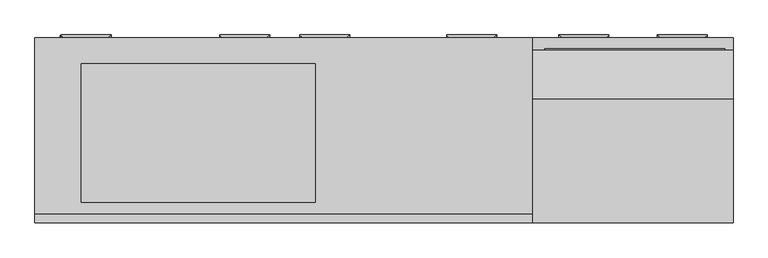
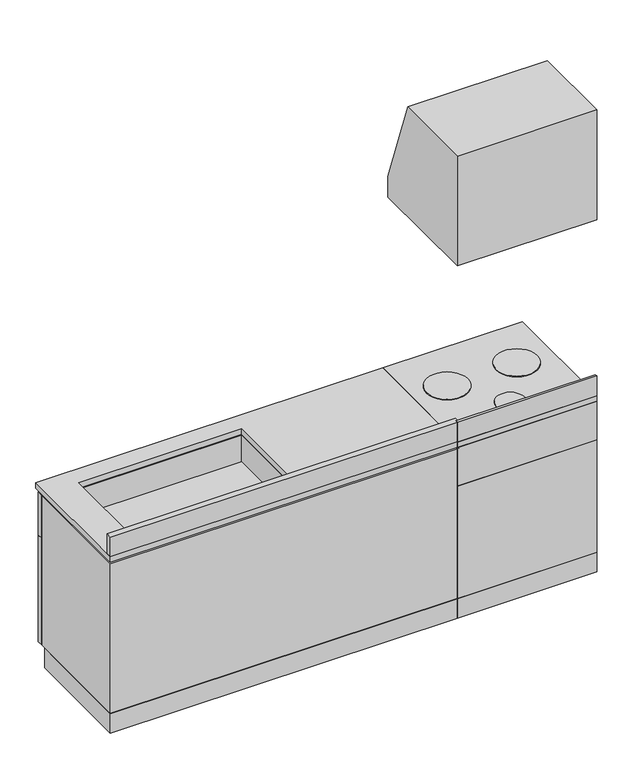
"""IFC4 building model written with IfcOpenShell, lengths in millimetres: flow terminal geometry, システムキッチンIH : システムキッチンIH."""

import ifcopenshell
import ifcopenshell.guid

model = None  # the IFC model being written
_history = None  # IfcOwnerHistory: only IFC2X3 demands one
_inside = {}  # id of a spatial element -> (the spatial element, [elements in it])
_under = {}  # id of a project, library or spatial element -> (it, [spatial elements below it])
_declared = {}  # id of a project -> (the project, [libraries it declares])
_typed = {}  # id of a type object -> (the type object, [elements of that type])
_made_of = {}  # id of a material, layer set ... -> (it, [elements and type objects made of it])


def new_model(schema):
    """Start an empty IFC model of exactly this schema.

    Asked for "IFC4X3", IfcOpenShell would pick the latest addendum, in which some entities
    have other attributes; the version numbers below select the first issue.
    IFC2X3 requires an IfcOwnerHistory on every rooted entity: one is made here for all.
    """
    global model, _history
    if schema == "IFC4X3":
        model = ifcopenshell.file(schema_version=(4, 3, 0, 0))
    else:
        model = ifcopenshell.file(schema=schema)
    _inside.clear()
    _under.clear()
    _declared.clear()
    _typed.clear()
    _made_of.clear()
    _history = None
    if model.schema == "IFC2X3":
        org = make("IfcOrganization", Name="unknown")
        user = make(
            "IfcPersonAndOrganization",
            ThePerson=make("IfcPerson", FamilyName="unknown"),
            TheOrganization=org,
        )
        app = make(
            "IfcApplication",
            ApplicationDeveloper=org,
            Version="unknown",
            ApplicationFullName="unknown",
            ApplicationIdentifier="unknown",
        )
        _history = make(
            "IfcOwnerHistory",
            OwningUser=user,
            OwningApplication=app,
            ChangeAction="ADDED",
            CreationDate=0,
        )
    return model


def make(cls, **values):
    """One entity of the class cls with the attributes given. An attribute that is None is left unset."""
    return model.create_entity(
        cls, **{name: value for name, value in values.items() if value is not None}
    )


def rooted(cls, **values):
    """An entity with a GlobalId (a new one), such as an element, a storey or a relation."""
    return make(cls, GlobalId=ifcopenshell.guid.new(), OwnerHistory=_history, **values)


def si_unit(unit_type, name, prefix=None):
    """IfcSIUnit, for example si_unit("LENGTHUNIT", "METRE", prefix="MILLI")."""
    return make("IfcSIUnit", UnitType=unit_type, Prefix=prefix, Name=name)


def assignment(units):
    """IfcUnitAssignment: the units of a project."""
    return None if units is None else make("IfcUnitAssignment", Units=units)


def point(xyz):
    """IfcCartesianPoint."""
    return None if xyz is None else make("IfcCartesianPoint", Coordinates=xyz)


def direction(xyz):
    """IfcDirection."""
    return None if xyz is None else make("IfcDirection", DirectionRatios=xyz)


def frame(location, z_axis=None, x_axis=None):
    """IfcAxis2Placement3D, a coordinate frame: its origin and axes. An axis left out is left unset."""
    return make(
        "IfcAxis2Placement3D",
        Location=point(location),
        Axis=direction(z_axis),
        RefDirection=direction(x_axis),
    )


def frame_2d(location, x_axis=None):
    """IfcAxis2Placement2D, a coordinate frame in the plane: its origin and x axis."""
    return make(
        "IfcAxis2Placement2D", Location=point(location), RefDirection=direction(x_axis)
    )


def origin():
    """The frame at (0, 0, 0) with its axes left unset."""
    return frame((0.0, 0.0, 0.0))


def place(relative_to, where):
    """IfcLocalPlacement: puts the frame where relative to a parent placement (None: the world)."""
    return make(
        "IfcLocalPlacement", PlacementRelTo=relative_to, RelativePlacement=where
    )


def context(
    kind, dimensions, precision=None, world=None, true_north=None, identifier=None
):
    """IfcGeometricRepresentationContext, for example the 3D "Model" context."""
    return make(
        "IfcGeometricRepresentationContext",
        ContextIdentifier=identifier,
        ContextType=kind,
        CoordinateSpaceDimension=dimensions,
        Precision=precision,
        WorldCoordinateSystem=world,
        TrueNorth=true_north,
    )


def project(units=None, contexts=None):
    """IfcProject with its units and contexts."""
    return rooted(
        "IfcProject",
        Name="project",
        RepresentationContexts=contexts,
        UnitsInContext=assignment(units),
    )


def spatial(cls, under=None, at=None, **own):
    """A site, building, storey or space (cls), placed at a placement, below another one or the project."""
    s = rooted(cls, ObjectPlacement=at, **own)
    if under is not None:
        _under.setdefault(under.id(), (under, []))[1].append(s)
    return s


def polyline(points):
    """IfcPolyline through the points."""
    return make("IfcPolyline", Points=[point(p) for p in points])


def circle_curve(where, radius):
    """IfcCircle in the frame where."""
    return make("IfcCircle", Position=where, Radius=radius)


def ellipse_curve(where, semi_axis1, semi_axis2):
    """IfcEllipse in the frame where."""
    return make(
        "IfcEllipse", Position=where, SemiAxis1=semi_axis1, SemiAxis2=semi_axis2
    )


def trimmed(basis, trim1, trim2, sense, master):
    """IfcTrimmedCurve: the piece of a basis curve between two trims."""
    return make(
        "IfcTrimmedCurve",
        BasisCurve=basis,
        Trim1=trim1,
        Trim2=trim2,
        SenseAgreement=sense,
        MasterRepresentation=master,
    )


def segment(curve, same_sense, transition):
    """IfcCompositeCurveSegment."""
    return make(
        "IfcCompositeCurveSegment",
        Transition=transition,
        SameSense=same_sense,
        ParentCurve=curve,
    )


def composite_curve(segments, self_intersect=None):
    """IfcCompositeCurve: segments joined end to end."""
    return make("IfcCompositeCurve", Segments=segments, SelfIntersect=self_intersect)


def outline(outer, holes=None, kind="AREA"):
    """IfcArbitraryClosedProfileDef: a profile drawn as a closed curve; with holes, ...WithVoids."""
    if holes is None:
        return make("IfcArbitraryClosedProfileDef", ProfileType=kind, OuterCurve=outer)
    return make(
        "IfcArbitraryProfileDefWithVoids",
        ProfileType=kind,
        OuterCurve=outer,
        InnerCurves=holes,
    )


def extrude(swept, where, along, depth):
    """IfcExtrudedAreaSolid: the profile swept, set in the frame where, extruded along a direction by depth."""
    return make(
        "IfcExtrudedAreaSolid",
        SweptArea=swept,
        Position=where,
        ExtrudedDirection=direction(along),
        Depth=depth,
    )


def faces_of(points, faces, orient=None, outer=None):
    """IfcFace entities. A face is a list of loops; a loop is a list of indices into points, from 0.

    orient and outer hold one flag for each loop. By default every Orientation is true, the
    first loop of a face is its IfcFaceOuterBound and the others are IfcFaceBound.
    """
    made = []
    for i, loops in enumerate(faces):
        bounds = []
        for j, loop in enumerate(loops):
            is_outer = j == 0 if outer is None else outer[i][j]
            bounds.append(
                make(
                    "IfcFaceOuterBound" if is_outer else "IfcFaceBound",
                    Bound=make("IfcPolyLoop", Polygon=[points[k] for k in loop]),
                    Orientation=True if orient is None else orient[i][j],
                )
            )
        made.append(make("IfcFace", Bounds=bounds))
    return made


def faceted_brep(points, faces, orient=None, outer=None, voids=None):
    """IfcFacetedBrep: a solid bounded by flat faces; with voids (closed shells), ...WithVoids."""
    shared = [point(p) for p in points]
    hull = make("IfcClosedShell", CfsFaces=faces_of(shared, faces, orient, outer))
    if voids is None:
        return make("IfcFacetedBrep", Outer=hull)
    return make(
        "IfcFacetedBrepWithVoids",
        Outer=hull,
        Voids=[
            make(cls, CfsFaces=faces_of(shared, fs, o, b)) for cls, fs, o, b in voids
        ],
    )


def shape(context_of_items, identifier, shape_type, items):
    """IfcShapeRepresentation: the items that make up one representation, for example the "Body"."""
    return make(
        "IfcShapeRepresentation",
        ContextOfItems=context_of_items,
        RepresentationIdentifier=identifier,
        RepresentationType=shape_type,
        Items=items,
    )


def source(mapping_origin, context_of_items, identifier, shape_type, items):
    """IfcRepresentationMap: a shape defined once, which mapped items show again and again."""
    return make(
        "IfcRepresentationMap",
        MappingOrigin=mapping_origin,
        MappedRepresentation=shape(context_of_items, identifier, shape_type, items),
    )


def transform(
    local_origin,
    x_axis=None,
    y_axis=None,
    z_axis=None,
    scale=None,
    scale2=None,
    scale3=None,
    uniform=True,
):
    """IfcCartesianTransformationOperator3D, or its non-uniform kind. x_axis, y_axis, z_axis: its Axis1, 2, 3."""
    if uniform:
        return make(
            "IfcCartesianTransformationOperator3D",
            Axis1=direction(x_axis),
            Axis2=direction(y_axis),
            LocalOrigin=point(local_origin),
            Scale=scale,
            Axis3=direction(z_axis),
        )
    return make(
        "IfcCartesianTransformationOperator3DnonUniform",
        Axis1=direction(x_axis),
        Axis2=direction(y_axis),
        LocalOrigin=point(local_origin),
        Scale=scale,
        Axis3=direction(z_axis),
        Scale2=scale2,
        Scale3=scale3,
    )


def mapped(mapping_source, mapping_target):
    """IfcMappedItem: shows the shape of a source again, moved by a transform."""
    return make(
        "IfcMappedItem", MappingSource=mapping_source, MappingTarget=mapping_target
    )


def made_of(thing, what):
    """Note that an element or type object is made of a material, layer set ...; save() writes the relation."""
    if what is not None:
        _made_of.setdefault(what.id(), (what, []))[1].append(thing)
    return thing


def element(
    cls,
    number,
    at=None,
    inside=None,
    cuts=None,
    type_object=None,
    material=None,
    context=None,
    identifier="Body",
    shape_type=None,
    held_by="IfcProductDefinitionShape",
    body=None,
    shapes=None,
    **own,
):
    """One element of the class cls, such as IfcWall. Its Tag is "e" and its number.

    at: its placement. inside: the storey or other place that contains it. cuts: it is an
    opening in that element (IfcRelVoidsElement). A single representation is given by context,
    identifier, shape_type and body (its items); several are given by shapes. held_by: the class
    of the entity that holds the representations. save() writes the other relations.
    """
    e = rooted(cls, Tag="e%d" % number, ObjectPlacement=at, **own)
    if body is not None:
        shapes = [shape(context, identifier, shape_type, body)]
    if shapes is not None:
        e.Representation = make(held_by, Representations=shapes)
    if inside is not None:
        _inside.setdefault(inside.id(), (inside, []))[1].append(e)
    if cuts is not None:
        rooted(
            "IfcRelVoidsElement", RelatingBuildingElement=cuts, RelatedOpeningElement=e
        )
    if type_object is not None:
        _typed.setdefault(type_object.id(), (type_object, []))[1].append(e)
    return made_of(e, material)


def aggregate(whole, parts):
    """IfcRelAggregates: a whole, such as a stair, and the parts it consists of."""
    return rooted("IfcRelAggregates", RelatingObject=whole, RelatedObjects=parts)


def save(model, path):
    """Write the relations noted so far, then the file.

    IfcRelAggregates (storeys below a building ...), IfcRelContainedInSpatialStructure (elements
    in a storey), IfcRelDefinesByType, IfcRelAssociatesMaterial and IfcRelDeclares: one each for
    every whole, place, type object, material and project.
    """
    for whole, parts in _under.values():
        aggregate(whole, parts)
    for where, things in _inside.values():
        rooted(
            "IfcRelContainedInSpatialStructure",
            RelatedElements=things,
            RelatingStructure=where,
        )
    for kind, things in _typed.values():
        rooted("IfcRelDefinesByType", RelatedObjects=things, RelatingType=kind)
    for what, things in _made_of.values():
        rooted("IfcRelAssociatesMaterial", RelatedObjects=things, RelatingMaterial=what)
    for by, libraries in _declared.values():
        rooted("IfcRelDeclares", RelatingContext=by, RelatedDefinitions=libraries)
    model.write(path)


def plane_surface(at):
    """IfcPlane: the flat surface through the origin of the frame at, square to its z axis."""
    return make("IfcPlane", Position=at)


def cylinder_surface(at, radius):
    """IfcCylindricalSurface: all points at the distance radius from the z axis of the frame at."""
    return make("IfcCylindricalSurface", Position=at, Radius=radius)


def advanced_brep(points, edges, surfaces, faces):
    """IfcAdvancedBrep: a solid bounded by faces that lie on surfaces and meet in shared edges.

    An edge is (start, end): straight between two places in points (the first is 0);
    or (start, end, curve); or (start, end, curve, False) where it runs against its curve.
    A face is (place in surfaces, loops), or (place, loops, False) where it looks against
    its surface's normal. A loop lists edges by number (the first is 1), with a minus sign
    where the edge is run from its end to its start. The first loop is the outer one.
    """
    corners = [point(p) for p in points]
    vertices = [make("IfcVertexPoint", VertexGeometry=c) for c in corners]
    made = []
    for start, end, *more in edges:
        made.append(
            make(
                "IfcEdgeCurve",
                EdgeStart=vertices[start],
                EdgeEnd=vertices[end],
                EdgeGeometry=more[0] if more else make("IfcPolyline", Points=[corners[start], corners[end]]),
                SameSense=more[1] if len(more) > 1 else True,
            )
        )
    hull = []
    for where, loops, *sense in faces:
        bounds = []
        for j, loop in enumerate(loops):
            ring = [make("IfcOrientedEdge", EdgeElement=made[abs(k) - 1], Orientation=k > 0) for k in loop]
            bounds.append(
                make(
                    "IfcFaceOuterBound" if j == 0 else "IfcFaceBound",
                    Bound=make("IfcEdgeLoop", EdgeList=ring),
                    Orientation=True,
                )
            )
        hull.append(make("IfcAdvancedFace", Bounds=bounds, FaceSurface=surfaces[where], SameSense=sense[0] if sense else True))
    return make("IfcAdvancedBrep", Outer=make("IfcClosedShell", CfsFaces=hull))


def flow_terminal_5276808d(model_context):
    return source(origin(), model_context, "Body", "SolidModel", [
        extrude(outline(polyline([(0.0, 1600.0), (0.0, 2099.0082413), (369.4428062, 2099.0082413), (516.4897805, 1695.0), (516.4897805, 1600.0), (0.0, 1600.0)])), frame((-600.0, 0.0, 0.0), z_axis=(1.0, 0.0, 0.0), x_axis=(0.0, 1.0, 0.0)), (0.0, 0.0, 1.0), 600.0),
        extrude(outline(polyline([(-24.5306616, 520.5154649), (-24.5306616, 516.4897805), (-564.5306616, 516.4897805), (-564.5306616, 520.5154649), (-24.5306616, 520.5154649)])), frame((0.0, 0.0, 1619.5443084), z_axis=(0.0, 0.0, 1.0), x_axis=(1.0, 0.0, 0.0)), (0.0, 0.0, 1.0), 40.0),
        extrude(outline(polyline([(0.0, 0.0), (-600.0, 0.0), (-600.0, 9.8381791), (0.0, 9.8381791), (0.0, 0.0)])), frame((0.0, 0.0, 800.0), z_axis=(0.0, 0.0, 1.0), x_axis=(1.0, 0.0, 0.0)), (0.0, 0.0, 1.0), 90.0),
        extrude(outline(polyline([(0.0, 0.0), (-600.0, 0.0), (-600.0, 540.0), (0.0, 540.0), (0.0, 0.0)])), frame((0.0, 0.0, 600.0), z_axis=(0.0, 0.0, 1.0), x_axis=(1.0, 0.0, 0.0)), (0.0, 0.0, 1.0), 175.0),
        faceted_brep([(0.0, 0.0, 600.0), (0.0, 516.4897805, 600.0), (-600.0, 516.4897805, 600.0), (-600.0, 0.0, 600.0), (-600.0, 0.0, 88.5), (-600.0, 540.0, 88.5), (-307.8169644, 540.0, 88.5), (-307.8169644, 516.4897805, 88.5), (-292.8169644, 516.4897805, 88.5), (-292.8169644, 540.0, 88.5), (0.0, 540.0, 88.5), (0.0, 0.0, 88.5), (-600.0, 516.4897805, 590.0), (-600.0, 540.0, 590.0), (-292.8169644, 540.0, 590.0), (0.0, 540.0, 590.0), (-307.8169644, 540.0, 590.0), (0.0, 516.4897805, 590.0), (-307.8169644, 516.4897805, 590.0), (-292.8169644, 516.4897805, 590.0)], [[[0, 1, 2, 3]], [[4, 5, 6, 7, 8, 9, 10, 11]], [[4, 3, 2, 12, 13, 5]], [[9, 14, 15, 10]], [[5, 13, 16, 6]], [[10, 15, 17, 1, 0, 11]], [[3, 4, 11, 0]], [[18, 12, 2, 1, 17, 19, 8, 7]], [[18, 16, 13, 12]], [[17, 15, 14, 19]], [[19, 14, 9, 8]], [[7, 6, 16, 18]]]),
        extrude(outline(composite_curve([segment(trimmed(circle_curve(frame_2d((-300.0, 124.5419688)), 60.0), [point((-360.0, 124.5419688))], [point((-240.0, 124.5419688))], False, "CARTESIAN"), True, "CONTINUOUS"), segment(trimmed(circle_curve(frame_2d((-300.0, 124.5419688)), 60.0), [point((-240.0, 124.5419688))], [point((-360.0, 124.5419688))], False, "CARTESIAN"), True, "CONTINUOUS")], self_intersect=False)), frame((0.0, 0.0, 800.0), z_axis=(0.0, 0.0, 1.0), x_axis=(1.0, 0.0, 0.0)), (0.0, 0.0, 1.0), 3.4559593),
        extrude(outline(composite_curve([segment(trimmed(circle_curve(frame_2d((-152.4677396, 331.6593351)), 89.0934112), [point((-241.5611508, 331.6593351))], [point((-63.3743285, 331.6593351))], False, "CARTESIAN"), True, "CONTINUOUS"), segment(trimmed(circle_curve(frame_2d((-152.4677396, 331.6593351)), 89.0934112), [point((-63.3743285, 331.6593351))], [point((-241.5611508, 331.6593351))], False, "CARTESIAN"), True, "CONTINUOUS")], self_intersect=False)), frame((0.0, 0.0, 800.0), z_axis=(0.0, 0.0, 1.0), x_axis=(1.0, 0.0, 0.0)), (0.0, 0.0, 1.0), 3.4559593),
        extrude(outline(composite_curve([segment(trimmed(circle_curve(frame_2d((-452.4677396, 331.6593351)), 89.0934112), [point((-541.5611508, 331.6593351))], [point((-363.3743285, 331.6593351))], False, "CARTESIAN"), True, "CONTINUOUS"), segment(trimmed(circle_curve(frame_2d((-452.4677396, 331.6593351)), 89.0934112), [point((-363.3743285, 331.6593351))], [point((-541.5611508, 331.6593351))], False, "CARTESIAN"), True, "CONTINUOUS")], self_intersect=False)), frame((0.0, 0.0, 800.0), z_axis=(0.0, 0.0, 1.0), x_axis=(1.0, 0.0, 0.0)), (0.0, 0.0, 1.0), 3.4559593),
        extrude(outline(polyline([(0.0, 0.0), (-600.0, 0.0), (-600.0, 555.0), (0.0, 555.0), (0.0, 0.0)])), frame((0.0, 0.0, 775.0), z_axis=(0.0, 0.0, 1.0), x_axis=(1.0, 0.0, 0.0)), (0.0, 0.0, 1.0), 25.0),
        advanced_brep(
        [(-227.6629348, 537.5962435, 549.478406), (-217.6629348, 537.5962435, 549.478406), (-217.6629348, 552.5962435, 549.478406), (-227.6629348, 562.5962435, 549.478406), (-87.6629348, 552.5962435, 549.478406), (-77.6629348, 562.5962435, 549.478406), (-77.6629348, 537.5962435, 549.478406), (-87.6629348, 537.5962435, 549.478406)],
        [
            (0, 1, circle_curve(frame((-222.6629348, 537.5962435, 549.478406), z_axis=(0.0, -1.0, 0.0), x_axis=(1.0, 0.0, 0.0)), 5.0)),
            (1, 0, circle_curve(frame((-222.6629348, 537.5962435, 549.478406), z_axis=(0.0, -1.0, 0.0), x_axis=(1.0, 0.0, 0.0)), 5.0)),
            (1, 2),
            (2, 3, ellipse_curve(frame((-222.6629348, 557.5962435, 549.478406), z_axis=(-0.7071067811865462, -0.7071067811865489, 0.0), x_axis=(0.707106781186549, -0.707106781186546, 0.0)), 7.0710678, 5.0)),
            (3, 0),
            (3, 2, ellipse_curve(frame((-222.6629348, 557.5962435, 549.478406), z_axis=(-0.7071067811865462, -0.7071067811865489, 0.0), x_axis=(0.707106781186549, -0.707106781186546, 0.0)), 7.0710678, 5.0)),
            (2, 4),
            (4, 5, ellipse_curve(frame((-82.6629348, 557.5962435, 549.478406), z_axis=(-0.7071067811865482, 0.7071067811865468, 0.0), x_axis=(-0.7071067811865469, -0.7071067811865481, 0.0)), 7.0710678, 5.0)),
            (5, 3),
            (5, 4, ellipse_curve(frame((-82.6629348, 557.5962435, 549.478406), z_axis=(-0.7071067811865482, 0.7071067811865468, 0.0), x_axis=(-0.7071067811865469, -0.7071067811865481, 0.0)), 7.0710678, 5.0)),
            (6, 7, circle_curve(frame((-82.6629348, 537.5962435, 549.478406), z_axis=(0.0, -1.0, 0.0), x_axis=(-1.0, 0.0, 0.0)), 5.0)),
            (7, 6, circle_curve(frame((-82.6629348, 537.5962435, 549.478406), z_axis=(0.0, -1.0, 0.0), x_axis=(-1.0, 0.0, 0.0)), 5.0)),
            (4, 7),
            (6, 5),
        ],
        [
            plane_surface(frame((-222.6629348, 537.5962435, 0.0), z_axis=(0.0, -1.0, 0.0), x_axis=(0.0, 0.0, 1.0))),
            cylinder_surface(frame((-222.6629348, 537.5962435, 549.478406), z_axis=(0.0, -1.0, 0.0), x_axis=(1.0, 0.0, 0.0)), 5.0),
            cylinder_surface(frame((-222.6629348, 557.5962435, 549.478406), z_axis=(-1.0, 0.0, 0.0), x_axis=(0.0, -1.0, 0.0)), 5.0),
            plane_surface(frame((-82.6629348, 537.5962435, 0.0), z_axis=(0.0, -1.0, 0.0), x_axis=(0.0, 0.0, 1.0))),
            cylinder_surface(frame((-82.6629348, 557.5962435, 549.478406), z_axis=(0.0, 1.0, 0.0), x_axis=(-1.0, 0.0, 0.0)), 5.0),
        ],
        [
            (0, [[1, 2]]),
            (1, [[3, 4, 5, -2]]),
            (1, [[-5, 6, -3, -1]]),
            (2, [[7, 8, 9, -4]]),
            (2, [[-9, 10, -7, -6]]),
            (3, [[11, 12]]),
            (4, [[13, -11, 14, -8]]),
            (4, [[-14, -12, -13, -10]]),
        ],
    ),
        advanced_brep(
        [(-522.1659599, 537.5962435, 552.9843944), (-512.1659599, 537.5962435, 552.9843944), (-512.1659599, 552.5962435, 552.9843944), (-522.1659599, 562.5962435, 552.9843944), (-382.1659599, 552.5962435, 552.9843944), (-372.1659599, 562.5962435, 552.9843944), (-372.1659599, 537.5962435, 552.9843944), (-382.1659599, 537.5962435, 552.9843944)],
        [
            (0, 1, circle_curve(frame((-517.1659599, 537.5962435, 552.9843944), z_axis=(0.0, -1.0, 0.0), x_axis=(1.0, 0.0, 0.0)), 5.0)),
            (1, 0, circle_curve(frame((-517.1659599, 537.5962435, 552.9843944), z_axis=(0.0, -1.0, 0.0), x_axis=(1.0, 0.0, 0.0)), 5.0)),
            (1, 2),
            (2, 3, ellipse_curve(frame((-517.1659599, 557.5962435, 552.9843944), z_axis=(-0.7071067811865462, -0.7071067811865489, 0.0), x_axis=(0.707106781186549, -0.707106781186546, 0.0)), 7.0710678, 5.0)),
            (3, 0),
            (3, 2, ellipse_curve(frame((-517.1659599, 557.5962435, 552.9843944), z_axis=(-0.7071067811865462, -0.7071067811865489, 0.0), x_axis=(0.707106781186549, -0.707106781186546, 0.0)), 7.0710678, 5.0)),
            (2, 4),
            (4, 5, ellipse_curve(frame((-377.1659599, 557.5962435, 552.9843944), z_axis=(-0.7071067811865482, 0.7071067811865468, 0.0), x_axis=(-0.7071067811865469, -0.7071067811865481, 0.0)), 7.0710678, 5.0)),
            (5, 3),
            (5, 4, ellipse_curve(frame((-377.1659599, 557.5962435, 552.9843944), z_axis=(-0.7071067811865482, 0.7071067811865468, 0.0), x_axis=(-0.7071067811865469, -0.7071067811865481, 0.0)), 7.0710678, 5.0)),
            (6, 7, circle_curve(frame((-377.1659599, 537.5962435, 552.9843944), z_axis=(0.0, -1.0, 0.0), x_axis=(-1.0, 0.0, 0.0)), 5.0)),
            (7, 6, circle_curve(frame((-377.1659599, 537.5962435, 552.9843944), z_axis=(0.0, -1.0, 0.0), x_axis=(-1.0, 0.0, 0.0)), 5.0)),
            (4, 7),
            (6, 5),
        ],
        [
            plane_surface(frame((-517.1659599, 537.5962435, 0.0), z_axis=(0.0, -1.0, 0.0), x_axis=(0.0, 0.0, 1.0))),
            cylinder_surface(frame((-517.1659599, 537.5962435, 552.9843944), z_axis=(0.0, -1.0, 0.0), x_axis=(1.0, 0.0, 0.0)), 5.0),
            cylinder_surface(frame((-517.1659599, 557.5962435, 552.9843944), z_axis=(-1.0, 0.0, 0.0), x_axis=(0.0, -1.0, 0.0)), 5.0),
            plane_surface(frame((-377.1659599, 537.5962435, 0.0), z_axis=(0.0, -1.0, 0.0), x_axis=(0.0, 0.0, 1.0))),
            cylinder_surface(frame((-377.1659599, 557.5962435, 552.9843944), z_axis=(0.0, 1.0, 0.0), x_axis=(-1.0, 0.0, 0.0)), 5.0),
        ],
        [
            (0, [[1, 2]]),
            (1, [[3, 4, 5, -2]]),
            (1, [[-5, 6, -3, -1]]),
            (2, [[7, 8, 9, -4]]),
            (2, [[-9, 10, -7, -6]]),
            (3, [[11, 12]]),
            (4, [[13, -11, 14, -8]]),
            (4, [[-14, -12, -13, -10]]),
        ],
    ),
        extrude(outline(polyline([(0.0, 0.0), (-600.0, 0.0), (-600.0, 490.0), (0.0, 490.0), (0.0, 0.0)])), frame((0.0, 0.0, -0.5), z_axis=(0.0, 0.0, 1.0), x_axis=(1.0, 0.0, 0.0)), (0.0, 0.0, 1.0), 89.0),
        faceted_brep([(-2058.2204435, 25.0, 770.0), (-1043.7955275, 25.0, 770.0), (-1043.7955275, 490.0, 770.0), (-2058.2204435, 490.0, 770.0), (-1252.8937158, 61.4897805, 770.0), (-1952.8937158, 61.4897805, 770.0), (-1952.8937158, 476.3747196, 770.0), (-1252.8937158, 476.3747196, 770.0), (-2058.2204435, 25.0, 481.2861972), (-2058.2204435, 490.0, 481.2861972), (-1043.7955275, 490.0, 481.2861972), (-1043.7955275, 25.0, 481.2861972), (-1952.8937158, 61.4897805, 650.0), (-1252.8937158, 61.4897805, 650.0), (-1252.8937158, 476.3747196, 650.0), (-1952.8937158, 476.3747196, 650.0)], [[[0, 1, 2, 3], [4, 5, 6, 7]], [[8, 9, 10, 11]], [[1, 0, 8, 11]], [[2, 1, 11, 10]], [[3, 2, 10, 9]], [[0, 3, 9, 8]], [[12, 13, 14, 15]], [[13, 12, 5, 4]], [[14, 13, 4, 7]], [[15, 14, 7, 6]], [[12, 15, 6, 5]]]),
        extrude(outline(polyline([(-2092.3937158, 0.0), (-2092.3937158, 508.8242978), (-592.8937158, 508.8242978), (-592.8937158, 0.0), (-2092.3937158, 0.0)]), holes=[polyline([(-2058.2204435, 25.0), (-641.4661184, 25.0), (-641.4661184, 490.0), (-2058.2204435, 490.0), (-2058.2204435, 25.0)])]), frame((0.0, 0.0, 90.0), z_axis=(0.0, 0.0, 1.0), x_axis=(1.0, 0.0, 0.0)), (0.0, 0.0, 1.0), 680.0),
        extrude(outline(polyline([(-2092.3937158, 0.0), (-2092.3937158, 555.0), (-592.8937158, 555.0), (-592.8937158, 0.0), (-2092.3937158, 0.0)]), holes=[polyline([(-1952.8937158, 61.4897805), (-1252.8937158, 61.4897805), (-1252.8937158, 476.3747196), (-1952.8937158, 476.3747196), (-1952.8937158, 61.4897805)])]), frame((0.0, 0.0, 775.0), z_axis=(0.0, 0.0, 1.0), x_axis=(1.0, 0.0, 0.0)), (0.0, 0.0, 1.0), 25.0),
        advanced_brep(
        [(-1865.841626, 537.5962435, 514.8721474), (-1875.841626, 537.5962435, 514.8721474), (-1865.841626, 562.5962435, 514.8721474), (-1875.841626, 552.5962435, 514.8721474), (-2015.841626, 562.5962435, 514.8721474), (-2005.841626, 552.5962435, 514.8721474), (-2015.841626, 537.5962435, 514.8721474), (-2005.841626, 537.5962435, 514.8721474)],
        [
            (0, 1, circle_curve(frame((-1870.841626, 537.5962435, 514.8721474), z_axis=(0.0, -1.0, 0.0), x_axis=(-1.0, 0.0, 0.0)), 5.0)),
            (1, 0, circle_curve(frame((-1870.841626, 537.5962435, 514.8721474), z_axis=(0.0, -1.0, 0.0), x_axis=(-1.0, 0.0, 0.0)), 5.0)),
            (0, 2),
            (2, 3, ellipse_curve(frame((-1870.841626, 557.5962435, 514.8721474), z_axis=(0.7071067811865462, -0.7071067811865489, 0.0), x_axis=(-0.707106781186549, -0.707106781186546, 0.0)), 7.0710678, 5.0)),
            (3, 1),
            (3, 2, ellipse_curve(frame((-1870.841626, 557.5962435, 514.8721474), z_axis=(0.7071067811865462, -0.7071067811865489, 0.0), x_axis=(-0.707106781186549, -0.707106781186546, 0.0)), 7.0710678, 5.0)),
            (2, 4),
            (4, 5, ellipse_curve(frame((-2010.841626, 557.5962435, 514.8721474), z_axis=(0.7071067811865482, 0.7071067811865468, 0.0), x_axis=(0.7071067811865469, -0.7071067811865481, 0.0)), 7.0710678, 5.0)),
            (5, 3),
            (5, 4, ellipse_curve(frame((-2010.841626, 557.5962435, 514.8721474), z_axis=(0.7071067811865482, 0.7071067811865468, 0.0), x_axis=(0.7071067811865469, -0.7071067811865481, 0.0)), 7.0710678, 5.0)),
            (6, 7, circle_curve(frame((-2010.841626, 537.5962435, 514.8721474), z_axis=(0.0, -1.0, 0.0), x_axis=(1.0, 0.0, 0.0)), 5.0)),
            (7, 6, circle_curve(frame((-2010.841626, 537.5962435, 514.8721474), z_axis=(0.0, -1.0, 0.0), x_axis=(1.0, 0.0, 0.0)), 5.0)),
            (4, 6),
            (7, 5),
        ],
        [
            plane_surface(frame((-1870.841626, 537.5962435, -199.3877131), z_axis=(0.0, -1.0, 0.0), x_axis=(0.0, 0.0, 1.0))),
            cylinder_surface(frame((-1870.841626, 537.5962435, 514.8721474), z_axis=(0.0, -1.0, 0.0), x_axis=(-1.0, 0.0, 0.0)), 5.0),
            cylinder_surface(frame((-1870.841626, 557.5962435, 514.8721474), z_axis=(1.0, 0.0, 0.0), x_axis=(0.0, -1.0, 0.0)), 5.0),
            plane_surface(frame((-2010.841626, 537.5962435, -199.3877131), z_axis=(0.0, -1.0, 0.0), x_axis=(0.0, 0.0, 1.0))),
            cylinder_surface(frame((-2010.841626, 557.5962435, 514.8721474), z_axis=(0.0, 1.0, 0.0), x_axis=(1.0, 0.0, 0.0)), 5.0),
        ],
        [
            (0, [[1, 2]]),
            (1, [[-1, 3, 4, 5]]),
            (1, [[-2, -5, 6, -3]]),
            (2, [[-4, 7, 8, 9]]),
            (2, [[-6, -9, 10, -7]]),
            (3, [[11, 12]]),
            (4, [[-8, 13, -12, 14]]),
            (4, [[-10, -14, -11, -13]]),
        ],
    ),
        advanced_brep(
        [(-1863.8176436, 537.5962435, 714.2598605), (-1873.8176436, 537.5962435, 714.2598605), (-1863.8176436, 562.5962435, 714.2598605), (-1873.8176436, 552.5962435, 714.2598605), (-2013.8176436, 562.5962435, 714.2598605), (-2003.8176436, 552.5962435, 714.2598605), (-2013.8176436, 537.5962435, 714.2598605), (-2003.8176436, 537.5962435, 714.2598605)],
        [
            (0, 1, circle_curve(frame((-1868.8176436, 537.5962435, 714.2598605), z_axis=(0.0, -1.0, 0.0), x_axis=(-1.0, 0.0, 0.0)), 5.0)),
            (1, 0, circle_curve(frame((-1868.8176436, 537.5962435, 714.2598605), z_axis=(0.0, -1.0, 0.0), x_axis=(-1.0, 0.0, 0.0)), 5.0)),
            (0, 2),
            (2, 3, ellipse_curve(frame((-1868.8176436, 557.5962435, 714.2598605), z_axis=(0.7071067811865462, -0.7071067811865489, 0.0), x_axis=(-0.707106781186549, -0.707106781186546, 0.0)), 7.0710678, 5.0)),
            (3, 1),
            (3, 2, ellipse_curve(frame((-1868.8176436, 557.5962435, 714.2598605), z_axis=(0.7071067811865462, -0.7071067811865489, 0.0), x_axis=(-0.707106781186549, -0.707106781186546, 0.0)), 7.0710678, 5.0)),
            (2, 4),
            (4, 5, ellipse_curve(frame((-2008.8176436, 557.5962435, 714.2598605), z_axis=(0.7071067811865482, 0.7071067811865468, 0.0), x_axis=(0.7071067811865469, -0.7071067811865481, 0.0)), 7.0710678, 5.0)),
            (5, 3),
            (5, 4, ellipse_curve(frame((-2008.8176436, 557.5962435, 714.2598605), z_axis=(0.7071067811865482, 0.7071067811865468, 0.0), x_axis=(0.7071067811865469, -0.7071067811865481, 0.0)), 7.0710678, 5.0)),
            (6, 7, circle_curve(frame((-2008.8176436, 537.5962435, 714.2598605), z_axis=(0.0, -1.0, 0.0), x_axis=(1.0, 0.0, 0.0)), 5.0)),
            (7, 6, circle_curve(frame((-2008.8176436, 537.5962435, 714.2598605), z_axis=(0.0, -1.0, 0.0), x_axis=(1.0, 0.0, 0.0)), 5.0)),
            (4, 6),
            (7, 5),
        ],
        [
            plane_surface(frame((-1868.8176436, 537.5962435, 0.0), z_axis=(0.0, -1.0, 0.0), x_axis=(0.0, 0.0, 1.0))),
            cylinder_surface(frame((-1868.8176436, 537.5962435, 714.2598605), z_axis=(0.0, -1.0, 0.0), x_axis=(-1.0, 0.0, 0.0)), 5.0),
            cylinder_surface(frame((-1868.8176436, 557.5962435, 714.2598605), z_axis=(1.0, 0.0, 0.0), x_axis=(0.0, -1.0, 0.0)), 5.0),
            plane_surface(frame((-2008.8176436, 537.5962435, 0.0), z_axis=(0.0, -1.0, 0.0), x_axis=(0.0, 0.0, 1.0))),
            cylinder_surface(frame((-2008.8176436, 557.5962435, 714.2598605), z_axis=(0.0, 1.0, 0.0), x_axis=(1.0, 0.0, 0.0)), 5.0),
        ],
        [
            (0, [[1, 2]]),
            (1, [[-1, 3, 4, 5]]),
            (1, [[-2, -5, 6, -3]]),
            (2, [[-4, 7, 8, 9]]),
            (2, [[-6, -9, 10, -7]]),
            (3, [[11, 12]]),
            (4, [[-8, 13, -12, 14]]),
            (4, [[-10, -14, -11, -13]]),
        ],
    ),
        advanced_brep(
        [(-1388.8176436, 537.5962435, 714.2598605), (-1398.8176436, 537.5962435, 714.2598605), (-1388.8176436, 562.5962435, 714.2598605), (-1398.8176436, 552.5962435, 714.2598605), (-1538.8176436, 562.5962435, 714.2598605), (-1528.8176436, 552.5962435, 714.2598605), (-1538.8176436, 537.5962435, 714.2598605), (-1528.8176436, 537.5962435, 714.2598605)],
        [
            (0, 1, circle_curve(frame((-1393.8176436, 537.5962435, 714.2598605), z_axis=(0.0, -1.0, 0.0), x_axis=(-1.0, 0.0, 0.0)), 5.0)),
            (1, 0, circle_curve(frame((-1393.8176436, 537.5962435, 714.2598605), z_axis=(0.0, -1.0, 0.0), x_axis=(-1.0, 0.0, 0.0)), 5.0)),
            (0, 2),
            (2, 3, ellipse_curve(frame((-1393.8176436, 557.5962435, 714.2598605), z_axis=(0.7071067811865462, -0.7071067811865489, 0.0), x_axis=(-0.707106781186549, -0.707106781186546, 0.0)), 7.0710678, 5.0)),
            (3, 1),
            (3, 2, ellipse_curve(frame((-1393.8176436, 557.5962435, 714.2598605), z_axis=(0.7071067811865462, -0.7071067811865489, 0.0), x_axis=(-0.707106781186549, -0.707106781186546, 0.0)), 7.0710678, 5.0)),
            (2, 4),
            (4, 5, ellipse_curve(frame((-1533.8176436, 557.5962435, 714.2598605), z_axis=(0.7071067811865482, 0.7071067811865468, 0.0), x_axis=(0.7071067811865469, -0.7071067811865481, 0.0)), 7.0710678, 5.0)),
            (5, 3),
            (5, 4, ellipse_curve(frame((-1533.8176436, 557.5962435, 714.2598605), z_axis=(0.7071067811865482, 0.7071067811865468, 0.0), x_axis=(0.7071067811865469, -0.7071067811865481, 0.0)), 7.0710678, 5.0)),
            (6, 7, circle_curve(frame((-1533.8176436, 537.5962435, 714.2598605), z_axis=(0.0, -1.0, 0.0), x_axis=(1.0, 0.0, 0.0)), 5.0)),
            (7, 6, circle_curve(frame((-1533.8176436, 537.5962435, 714.2598605), z_axis=(0.0, -1.0, 0.0), x_axis=(1.0, 0.0, 0.0)), 5.0)),
            (4, 6),
            (7, 5),
        ],
        [
            plane_surface(frame((-1393.8176436, 537.5962435, 0.0), z_axis=(0.0, -1.0, 0.0), x_axis=(0.0, 0.0, 1.0))),
            cylinder_surface(frame((-1393.8176436, 537.5962435, 714.2598605), z_axis=(0.0, -1.0, 0.0), x_axis=(-1.0, 0.0, 0.0)), 5.0),
            cylinder_surface(frame((-1393.8176436, 557.5962435, 714.2598605), z_axis=(1.0, 0.0, 0.0), x_axis=(0.0, -1.0, 0.0)), 5.0),
            plane_surface(frame((-1533.8176436, 537.5962435, 0.0), z_axis=(0.0, -1.0, 0.0), x_axis=(0.0, 0.0, 1.0))),
            cylinder_surface(frame((-1533.8176436, 557.5962435, 714.2598605), z_axis=(0.0, 1.0, 0.0), x_axis=(1.0, 0.0, 0.0)), 5.0),
        ],
        [
            (0, [[1, 2]]),
            (1, [[-1, 3, 4, 5]]),
            (1, [[-2, -5, 6, -3]]),
            (2, [[-4, 7, 8, 9]]),
            (2, [[-6, -9, 10, -7]]),
            (3, [[11, 12]]),
            (4, [[-8, 13, -12, 14]]),
            (4, [[-10, -14, -11, -13]]),
        ],
    ),
        advanced_brep(
        [(-1148.8176436, 537.5962435, 714.2598605), (-1158.8176436, 537.5962435, 714.2598605), (-1148.8176436, 562.5962435, 714.2598605), (-1158.8176436, 552.5962435, 714.2598605), (-1298.8176436, 562.5962435, 714.2598605), (-1288.8176436, 552.5962435, 714.2598605), (-1298.8176436, 537.5962435, 714.2598605), (-1288.8176436, 537.5962435, 714.2598605)],
        [
            (0, 1, circle_curve(frame((-1153.8176436, 537.5962435, 714.2598605), z_axis=(0.0, -1.0, 0.0), x_axis=(-1.0, 0.0, 0.0)), 5.0)),
            (1, 0, circle_curve(frame((-1153.8176436, 537.5962435, 714.2598605), z_axis=(0.0, -1.0, 0.0), x_axis=(-1.0, 0.0, 0.0)), 5.0)),
            (0, 2),
            (2, 3, ellipse_curve(frame((-1153.8176436, 557.5962435, 714.2598605), z_axis=(0.7071067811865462, -0.7071067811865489, 0.0), x_axis=(-0.707106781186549, -0.707106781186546, 0.0)), 7.0710678, 5.0)),
            (3, 1),
            (3, 2, ellipse_curve(frame((-1153.8176436, 557.5962435, 714.2598605), z_axis=(0.7071067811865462, -0.7071067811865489, 0.0), x_axis=(-0.707106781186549, -0.707106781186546, 0.0)), 7.0710678, 5.0)),
            (2, 4),
            (4, 5, ellipse_curve(frame((-1293.8176436, 557.5962435, 714.2598605), z_axis=(0.7071067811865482, 0.7071067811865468, 0.0), x_axis=(0.7071067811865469, -0.7071067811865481, 0.0)), 7.0710678, 5.0)),
            (5, 3),
            (5, 4, ellipse_curve(frame((-1293.8176436, 557.5962435, 714.2598605), z_axis=(0.7071067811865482, 0.7071067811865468, 0.0), x_axis=(0.7071067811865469, -0.7071067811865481, 0.0)), 7.0710678, 5.0)),
            (6, 7, circle_curve(frame((-1293.8176436, 537.5962435, 714.2598605), z_axis=(0.0, -1.0, 0.0), x_axis=(1.0, 0.0, 0.0)), 5.0)),
            (7, 6, circle_curve(frame((-1293.8176436, 537.5962435, 714.2598605), z_axis=(0.0, -1.0, 0.0), x_axis=(1.0, 0.0, 0.0)), 5.0)),
            (4, 6),
            (7, 5),
        ],
        [
            plane_surface(frame((-1153.8176436, 537.5962435, 0.0), z_axis=(0.0, -1.0, 0.0), x_axis=(0.0, 0.0, 1.0))),
            cylinder_surface(frame((-1153.8176436, 537.5962435, 714.2598605), z_axis=(0.0, -1.0, 0.0), x_axis=(-1.0, 0.0, 0.0)), 5.0),
            cylinder_surface(frame((-1153.8176436, 557.5962435, 714.2598605), z_axis=(1.0, 0.0, 0.0), x_axis=(0.0, -1.0, 0.0)), 5.0),
            plane_surface(frame((-1293.8176436, 537.5962435, 0.0), z_axis=(0.0, -1.0, 0.0), x_axis=(0.0, 0.0, 1.0))),
            cylinder_surface(frame((-1293.8176436, 557.5962435, 714.2598605), z_axis=(0.0, 1.0, 0.0), x_axis=(1.0, 0.0, 0.0)), 5.0),
        ],
        [
            (0, [[1, 2]]),
            (1, [[-1, 3, 4, 5]]),
            (1, [[-2, -5, 6, -3]]),
            (2, [[-4, 7, 8, 9]]),
            (2, [[-6, -9, 10, -7]]),
            (3, [[11, 12]]),
            (4, [[-8, 13, -12, 14]]),
            (4, [[-10, -14, -11, -13]]),
        ],
    ),
        advanced_brep(
        [(-708.8176436, 537.5962435, 714.2598605), (-718.8176436, 537.5962435, 714.2598605), (-708.8176436, 562.5962435, 714.2598605), (-718.8176436, 552.5962435, 714.2598605), (-858.8176436, 562.5962435, 714.2598605), (-848.8176436, 552.5962435, 714.2598605), (-858.8176436, 537.5962435, 714.2598605), (-848.8176436, 537.5962435, 714.2598605)],
        [
            (0, 1, circle_curve(frame((-713.8176436, 537.5962435, 714.2598605), z_axis=(0.0, -1.0, 0.0), x_axis=(-1.0, 0.0, 0.0)), 5.0)),
            (1, 0, circle_curve(frame((-713.8176436, 537.5962435, 714.2598605), z_axis=(0.0, -1.0, 0.0), x_axis=(-1.0, 0.0, 0.0)), 5.0)),
            (0, 2),
            (2, 3, ellipse_curve(frame((-713.8176436, 557.5962435, 714.2598605), z_axis=(0.7071067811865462, -0.7071067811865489, 0.0), x_axis=(-0.707106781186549, -0.707106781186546, 0.0)), 7.0710678, 5.0)),
            (3, 1),
            (3, 2, ellipse_curve(frame((-713.8176436, 557.5962435, 714.2598605), z_axis=(0.7071067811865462, -0.7071067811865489, 0.0), x_axis=(-0.707106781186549, -0.707106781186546, 0.0)), 7.0710678, 5.0)),
            (2, 4),
            (4, 5, ellipse_curve(frame((-853.8176436, 557.5962435, 714.2598605), z_axis=(0.7071067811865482, 0.7071067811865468, 0.0), x_axis=(0.7071067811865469, -0.7071067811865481, 0.0)), 7.0710678, 5.0)),
            (5, 3),
            (5, 4, ellipse_curve(frame((-853.8176436, 557.5962435, 714.2598605), z_axis=(0.7071067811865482, 0.7071067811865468, 0.0), x_axis=(0.7071067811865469, -0.7071067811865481, 0.0)), 7.0710678, 5.0)),
            (6, 7, circle_curve(frame((-853.8176436, 537.5962435, 714.2598605), z_axis=(0.0, -1.0, 0.0), x_axis=(1.0, 0.0, 0.0)), 5.0)),
            (7, 6, circle_curve(frame((-853.8176436, 537.5962435, 714.2598605), z_axis=(0.0, -1.0, 0.0), x_axis=(1.0, 0.0, 0.0)), 5.0)),
            (4, 6),
            (7, 5),
        ],
        [
            plane_surface(frame((-713.8176436, 537.5962435, 0.0), z_axis=(0.0, -1.0, 0.0), x_axis=(0.0, 0.0, 1.0))),
            cylinder_surface(frame((-713.8176436, 537.5962435, 714.2598605), z_axis=(0.0, -1.0, 0.0), x_axis=(-1.0, 0.0, 0.0)), 5.0),
            cylinder_surface(frame((-713.8176436, 557.5962435, 714.2598605), z_axis=(1.0, 0.0, 0.0), x_axis=(0.0, -1.0, 0.0)), 5.0),
            plane_surface(frame((-853.8176436, 537.5962435, 0.0), z_axis=(0.0, -1.0, 0.0), x_axis=(0.0, 0.0, 1.0))),
            cylinder_surface(frame((-853.8176436, 557.5962435, 714.2598605), z_axis=(0.0, 1.0, 0.0), x_axis=(1.0, 0.0, 0.0)), 5.0),
        ],
        [
            (0, [[1, 2]]),
            (1, [[-1, 3, 4, 5]]),
            (1, [[-2, -5, 6, -3]]),
            (2, [[-4, 7, 8, 9]]),
            (2, [[-6, -9, 10, -7]]),
            (3, [[11, 12]]),
            (4, [[-8, 13, -12, 14]]),
            (4, [[-10, -14, -11, -13]]),
        ],
    ),
        extrude(outline(polyline([(-2092.3937158, 536.4897805), (-1797.3937158, 536.4897805), (-1797.3937158, 516.4897805), (-2092.3937158, 516.4897805), (-2092.3937158, 536.4897805)])), frame((0.0, 0.0, 89.5), z_axis=(0.0, 0.0, 1.0), x_axis=(1.0, 0.0, 0.0)), (0.0, 0.0, 1.0), 484.284389),
        extrude(outline(polyline([(-2092.3937158, 536.4897805), (-1797.3937158, 536.4897805), (-1797.3937158, 516.4897805), (-2092.3937158, 516.4897805), (-2092.3937158, 536.4897805)])), frame((0.0, 0.0, 575.0), z_axis=(0.0, 0.0, 1.0), x_axis=(1.0, 0.0, 0.0)), (0.0, 0.0, 1.0), 195.0),
        extrude(outline(polyline([(-1792.8937158, 516.4897805), (-1792.8937158, 536.4897805), (-1345.5480741, 536.4897805), (-1345.5480741, 516.4897805), (-1792.8937158, 516.4897805)])), frame((0.0, 0.0, 89.0), z_axis=(0.0, 0.0, 1.0), x_axis=(1.0, 0.0, 0.0)), (0.0, 0.0, 1.0), 681.0),
        extrude(outline(polyline([(-1342.3937158, 516.4897805), (-1342.3937158, 536.4897805), (-897.3937158, 536.4897805), (-897.3937158, 516.4897805), (-1342.3937158, 516.4897805)])), frame((0.0, 0.0, 89.0), z_axis=(0.0, 0.0, 1.0), x_axis=(1.0, 0.0, 0.0)), (0.0, 0.0, 1.0), 681.0),
        extrude(outline(polyline([(-892.8937158, 516.4897805), (-892.8937158, 536.4897805), (-592.8937158, 536.4897805), (-592.8937158, 516.4897805), (-892.8937158, 516.4897805)])), frame((0.0, 0.0, 89.0), z_axis=(0.0, 0.0, 1.0), x_axis=(1.0, 0.0, 0.0)), (0.0, 0.0, 1.0), 686.0),
        extrude(outline(polyline([(-2092.3937158, 0.0), (-2092.3937158, 490.0), (-592.8937158, 490.0), (-592.8937158, 0.0), (-2092.3937158, 0.0)])), frame((0.0, 0.0, -0.5), z_axis=(0.0, 0.0, 1.0), x_axis=(1.0, 0.0, 0.0)), (0.0, 0.0, 1.0), 89.0),
        extrude(outline(polyline([(-2092.3937158, 0.0), (-2092.3937158, 25.0), (-592.8937158, 25.0), (-592.8937158, 0.0), (-2092.3937158, 0.0)])), frame((0.0, 0.0, 800.0), z_axis=(0.0, 0.0, 1.0), x_axis=(1.0, 0.0, 0.0)), (0.0, 0.0, 1.0), 90.0),
    ])


if __name__ == "__main__":
    model = new_model("IFC4")
    model_context = context("Model", 3, world=origin())
    ifc_project = project(units=[si_unit("LENGTHUNIT", "METRE", prefix="MILLI")], contexts=[model_context])
    site = spatial("IfcSite", under=ifc_project)
    building = spatial("IfcBuilding", under=site)
    placement = place(None, origin())
    flow_terminal_shape = flow_terminal_5276808d(model_context)
    element("IfcFlowTerminal", 1, ObjectType="システムキッチンIH : システムキッチンIH", at=placement, inside=building, context=model_context, shape_type="MappedRepresentation", body=[
        mapped(flow_terminal_shape, transform((0.0, 0.0, 0.0), x_axis=(1.0, 0.0, 0.0), y_axis=(0.0, 1.0, 0.0), z_axis=(0.0, 0.0, 1.0))),
    ])
    save(model, "model.ifc")
